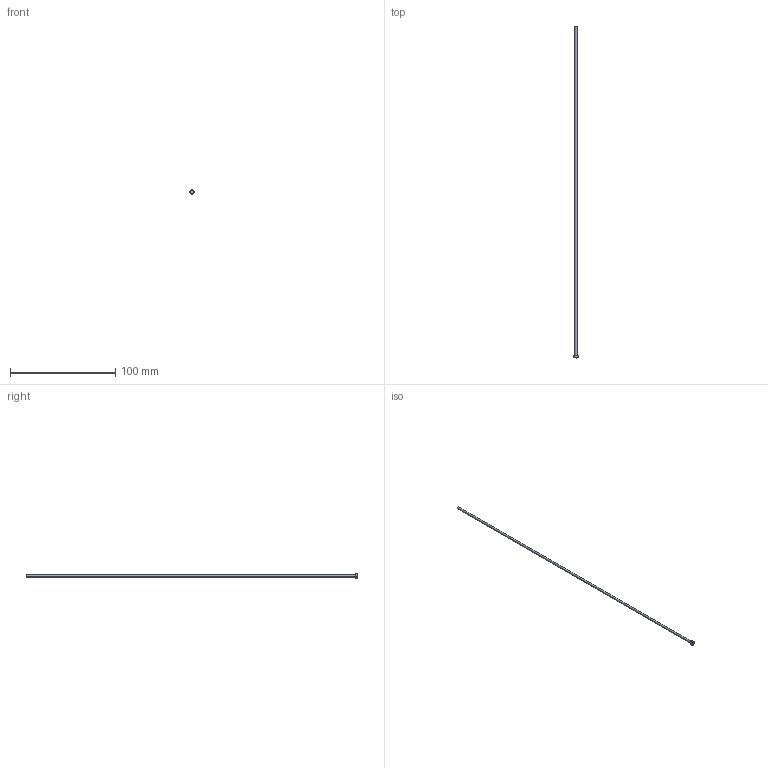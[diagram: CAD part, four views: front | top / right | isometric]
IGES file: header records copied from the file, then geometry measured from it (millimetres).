
Start section: SolidWorks IGES file using analytic representation for surfaces
Global section: file name: C:\Users\User\Downloads\Matripeça 31-08 tar\PB - PINO EXTRATOR TIPO _B_ (CATÁLOGO)\PB02,0\PB02,0315.IGS; native system: SolidWorks 2024; preprocessor: SolidWorks 2024; author: User; date: 260901.140624; units: millimetre
Bounding box: 4 x 315 x 4 mm (x, y, z)
Surface area: 2019.5 mm2 (no closed solid volume)
Topology: 0 solids, 0 shells, 405 faces, 2927 edges, 2927 vertices
Faces by surface type: bspline 391, revolution 14
